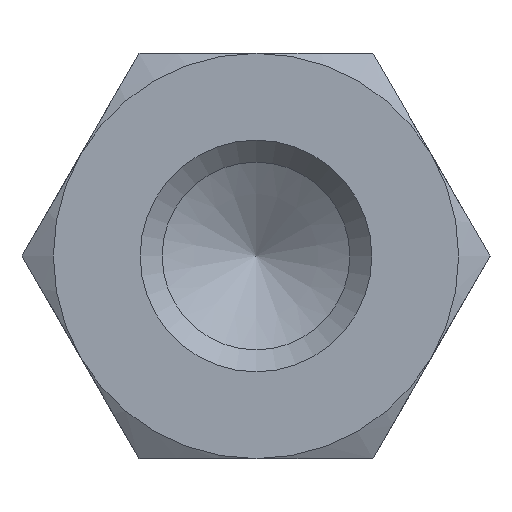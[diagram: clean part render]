
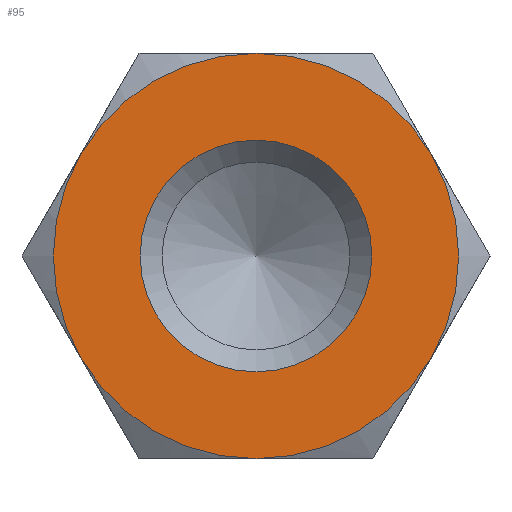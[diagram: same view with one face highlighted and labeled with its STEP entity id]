
A CAD part, left-side view. The second image highlights one B-rep face of the part: STEP entity #95.
In plain terms, the highlighted planar face has unit normal (-1, 0, 0).
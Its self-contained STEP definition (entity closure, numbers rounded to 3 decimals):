
#95 = ADVANCED_FACE( '', ( #147, #148 ), #149, .F. );
#147 = FACE_OUTER_BOUND( '', #206, .T. );
#148 = FACE_BOUND( '', #207, .T. );
#149 = PLANE( '', #208 );
#206 = EDGE_LOOP( '', ( #356, #357, #358, #359, #360, #361 ) );
#207 = EDGE_LOOP( '', ( #362 ) );
#208 = AXIS2_PLACEMENT_3D( '', #363, #364, #365 );
#356 = ORIENTED_EDGE( '', *, *, #440, .F. );
#357 = ORIENTED_EDGE( '', *, *, #425, .F. );
#358 = ORIENTED_EDGE( '', *, *, #441, .F. );
#359 = ORIENTED_EDGE( '', *, *, #437, .F. );
#360 = ORIENTED_EDGE( '', *, *, #442, .F. );
#361 = ORIENTED_EDGE( '', *, *, #443, .F. );
#362 = ORIENTED_EDGE( '', *, *, #439, .T. );
#363 = CARTESIAN_POINT( '', ( -50., 0., 0. ) );
#364 = DIRECTION( '', ( 1., 0., 0. ) );
#365 = DIRECTION( '', ( 0., 0., -1. ) );
#425 = EDGE_CURVE( '', #495, #493, #497, .T. );
#437 = EDGE_CURVE( '', #447, #506, #513, .T. );
#439 = EDGE_CURVE( '', #516, #516, #517, .T. );
#440 = EDGE_CURVE( '', #493, #486, #518, .T. );
#441 = EDGE_CURVE( '', #506, #495, #519, .T. );
#442 = EDGE_CURVE( '', #481, #447, #520, .T. );
#443 = EDGE_CURVE( '', #486, #481, #521, .T. );
#447 = VERTEX_POINT( '', #525 );
#481 = VERTEX_POINT( '', #595 );
#486 = VERTEX_POINT( '', #611 );
#493 = VERTEX_POINT( '', #632 );
#495 = VERTEX_POINT( '', #637 );
#497 = CIRCLE( '', #644, 3.5 );
#506 = VERTEX_POINT( '', #670 );
#513 = CIRCLE( '', #701, 3.5 );
#516 = VERTEX_POINT( '', #704 );
#517 = CIRCLE( '', #705, 2. );
#518 = CIRCLE( '', #706, 3.5 );
#519 = CIRCLE( '', #707, 3.5 );
#520 = CIRCLE( '', #708, 3.5 );
#521 = CIRCLE( '', #709, 3.5 );
#525 = CARTESIAN_POINT( '', ( -50., -3.031, 1.75 ) );
#595 = CARTESIAN_POINT( '', ( -50., 0., 3.5 ) );
#611 = CARTESIAN_POINT( '', ( -50., 3.031, 1.75 ) );
#632 = CARTESIAN_POINT( '', ( -50., 3.031, -1.75 ) );
#637 = CARTESIAN_POINT( '', ( -50., 0., -3.5 ) );
#644 = AXIS2_PLACEMENT_3D( '', #744, #745, #746 );
#670 = CARTESIAN_POINT( '', ( -50., -3.031, -1.75 ) );
#701 = AXIS2_PLACEMENT_3D( '', #749, #750, #751 );
#704 = CARTESIAN_POINT( '', ( -50., 0., -2. ) );
#705 = AXIS2_PLACEMENT_3D( '', #755, #756, #757 );
#706 = AXIS2_PLACEMENT_3D( '', #758, #759, #760 );
#707 = AXIS2_PLACEMENT_3D( '', #761, #762, #763 );
#708 = AXIS2_PLACEMENT_3D( '', #764, #765, #766 );
#709 = AXIS2_PLACEMENT_3D( '', #767, #768, #769 );
#744 = CARTESIAN_POINT( '', ( -50., 0., 0. ) );
#745 = DIRECTION( '', ( 1., 0., 0. ) );
#746 = DIRECTION( '', ( 0., 0., -1. ) );
#749 = CARTESIAN_POINT( '', ( -50., 0., 0. ) );
#750 = DIRECTION( '', ( 1., 0., 0. ) );
#751 = DIRECTION( '', ( 0., 0., -1. ) );
#755 = CARTESIAN_POINT( '', ( -50., 0., 0. ) );
#756 = DIRECTION( '', ( 1., 0., 0. ) );
#757 = DIRECTION( '', ( 0., 0., -1. ) );
#758 = CARTESIAN_POINT( '', ( -50., 0., 0. ) );
#759 = DIRECTION( '', ( 1., 0., 0. ) );
#760 = DIRECTION( '', ( 0., 0., -1. ) );
#761 = CARTESIAN_POINT( '', ( -50., 0., 0. ) );
#762 = DIRECTION( '', ( 1., 0., 0. ) );
#763 = DIRECTION( '', ( 0., 0., -1. ) );
#764 = CARTESIAN_POINT( '', ( -50., 0., 0. ) );
#765 = DIRECTION( '', ( 1., 0., 0. ) );
#766 = DIRECTION( '', ( 0., 0., -1. ) );
#767 = CARTESIAN_POINT( '', ( -50., 0., 0. ) );
#768 = DIRECTION( '', ( 1., 0., 0. ) );
#769 = DIRECTION( '', ( 0., 0., -1. ) );
